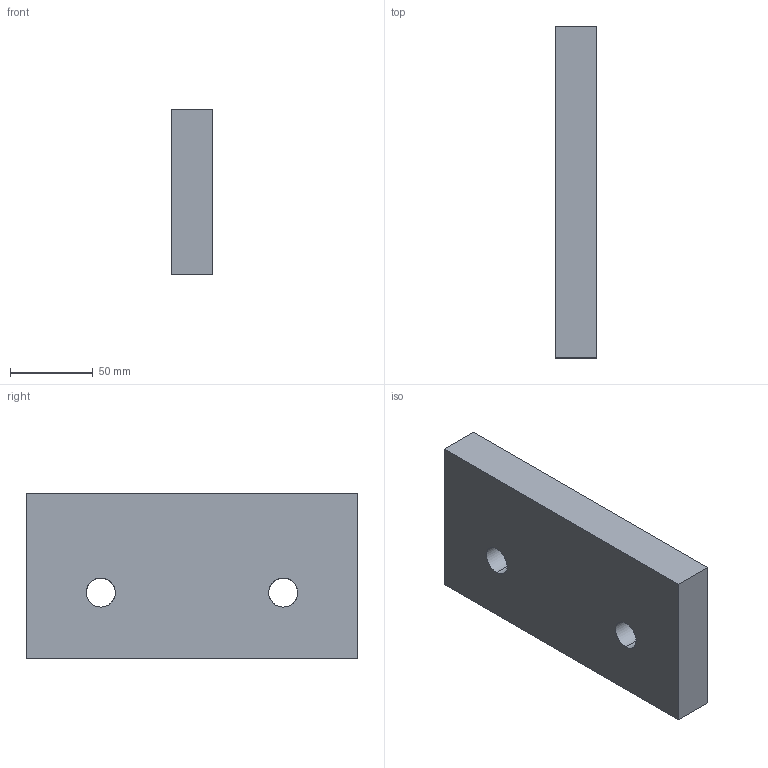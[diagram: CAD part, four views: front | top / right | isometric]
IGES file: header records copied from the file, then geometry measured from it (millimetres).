
Start section: START RECORD GO HERE.
Global section: file name: A612-100-200.igs; native system: DASSAULT SYSTEMES CATIA V5 R20 - www.3ds.com; preprocessor: CATIA Version 5 Release 20 ; author: Utente; organization: NB04-ASUS; date: 20200414.152205; units: millimetre
Bounding box: 25 x 200 x 100 mm (x, y, z)
Surface area: 56786.8 mm2 (no closed solid volume)
Topology: 0 solids, 0 shells, 10 faces, 48 edges, 48 vertices
Faces by surface type: extrusion 6, revolution 4
